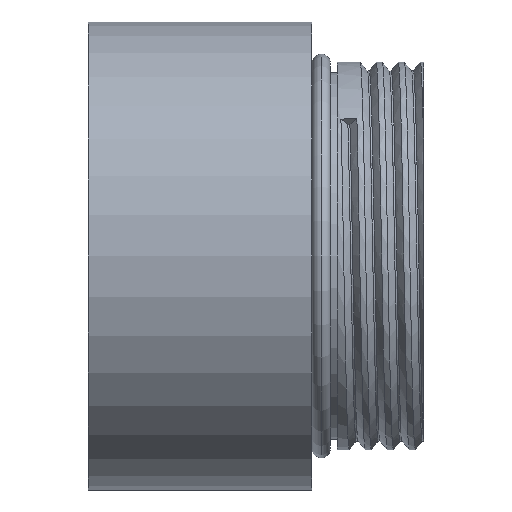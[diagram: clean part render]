
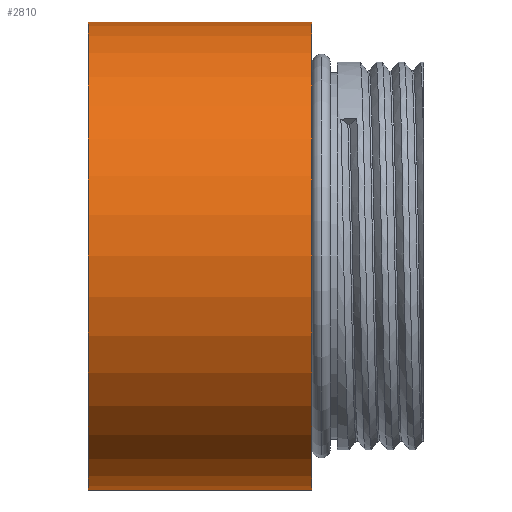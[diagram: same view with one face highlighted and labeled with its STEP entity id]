
A CAD part, front view. The second image highlights one B-rep face of the part: STEP entity #2810.
In plain terms, the highlighted cylindrical face has radius 14.967 mm (diameter 29.934 mm), a partial arc.
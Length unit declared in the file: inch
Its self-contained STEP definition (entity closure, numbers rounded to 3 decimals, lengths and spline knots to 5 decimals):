
#507 = FACE_OUTER_BOUND ( 'NONE', #2811, .T. ) ;
#509 = CYLINDRICAL_SURFACE ( 'NONE', #662, 0.58925 ) ;
#659 = DIRECTION ( 'NONE',  ( 0., 0., 1. ) ) ;
#660 = DIRECTION ( 'NONE',  ( -1., 0., 0. ) ) ;
#661 = CARTESIAN_POINT ( 'NONE',  ( -0.11095, 0., 0. ) ) ;
#662 = AXIS2_PLACEMENT_3D ( 'NONE', #661, #660, #659 ) ;
#897 = DIRECTION ( 'NONE',  ( 0., 0., 1. ) ) ;
#898 = DIRECTION ( 'NONE',  ( -1., 0., 0. ) ) ;
#899 = CARTESIAN_POINT ( 'NONE',  ( 0., 0., 0. ) ) ;
#900 = AXIS2_PLACEMENT_3D ( 'NONE', #899, #898, #897 ) ;
#901 = CIRCLE ( 'NONE', #900, 0.58925 ) ;
#2287 = DIRECTION ( 'NONE',  ( -1., 0., 0. ) ) ;
#2288 = VECTOR ( 'NONE', #2287, 39.37008 ) ;
#2289 = CARTESIAN_POINT ( 'NONE',  ( -0.11095, 0., -0.58925 ) ) ;
#2290 = LINE ( 'NONE', #2289, #2288 ) ;
#2291 = CARTESIAN_POINT ( 'NONE',  ( 0.563, 0., -0.58925 ) ) ;
#2292 = CARTESIAN_POINT ( 'NONE',  ( 0.563, 0., 0.58925 ) ) ;
#2299 = DIRECTION ( 'NONE',  ( -1., 0., 0. ) ) ;
#2300 = VECTOR ( 'NONE', #2299, 39.37008 ) ;
#2301 = CARTESIAN_POINT ( 'NONE',  ( -0.11095, 0., 0.58925 ) ) ;
#2302 = LINE ( 'NONE', #2301, #2300 ) ;
#2303 = CARTESIAN_POINT ( 'NONE',  ( 0., 0., 0.58925 ) ) ;
#2319 = CARTESIAN_POINT ( 'NONE',  ( 0., 0., -0.58925 ) ) ;
#2453 = DIRECTION ( 'NONE',  ( 0., 0., 1. ) ) ;
#2475 = CIRCLE ( 'NONE', #2498, 0.58925 ) ;
#2496 = DIRECTION ( 'NONE',  ( -1., 0., 0. ) ) ;
#2497 = CARTESIAN_POINT ( 'NONE',  ( 0.563, 0., 0. ) ) ;
#2498 = AXIS2_PLACEMENT_3D ( 'NONE', #2497, #2496, #2453 ) ;
#2810 = ADVANCED_FACE ( 'NONE', ( #507 ), #509, .T. ) ;
#2811 = EDGE_LOOP ( 'NONE', ( #3027, #3028, #3029, #2845 ) ) ;
#2845 = ORIENTED_EDGE ( 'NONE', *, *, #2846, .F. ) ;
#2846 = EDGE_CURVE ( 'NONE', #3022, #3012, #901, .T. ) ;
#2965 = EDGE_CURVE ( 'NONE', #3019, #3018, #2475, .T. ) ;
#3012 = VERTEX_POINT ( 'NONE', #2303 ) ;
#3014 = EDGE_CURVE ( 'NONE', #3018, #3012, #2302, .T. ) ;
#3018 = VERTEX_POINT ( 'NONE', #2292 ) ;
#3019 = VERTEX_POINT ( 'NONE', #2291 ) ;
#3021 = EDGE_CURVE ( 'NONE', #3019, #3022, #2290, .T. ) ;
#3022 = VERTEX_POINT ( 'NONE', #2319 ) ;
#3027 = ORIENTED_EDGE ( 'NONE', *, *, #3021, .F. ) ;
#3028 = ORIENTED_EDGE ( 'NONE', *, *, #2965, .T. ) ;
#3029 = ORIENTED_EDGE ( 'NONE', *, *, #3014, .T. ) ;
